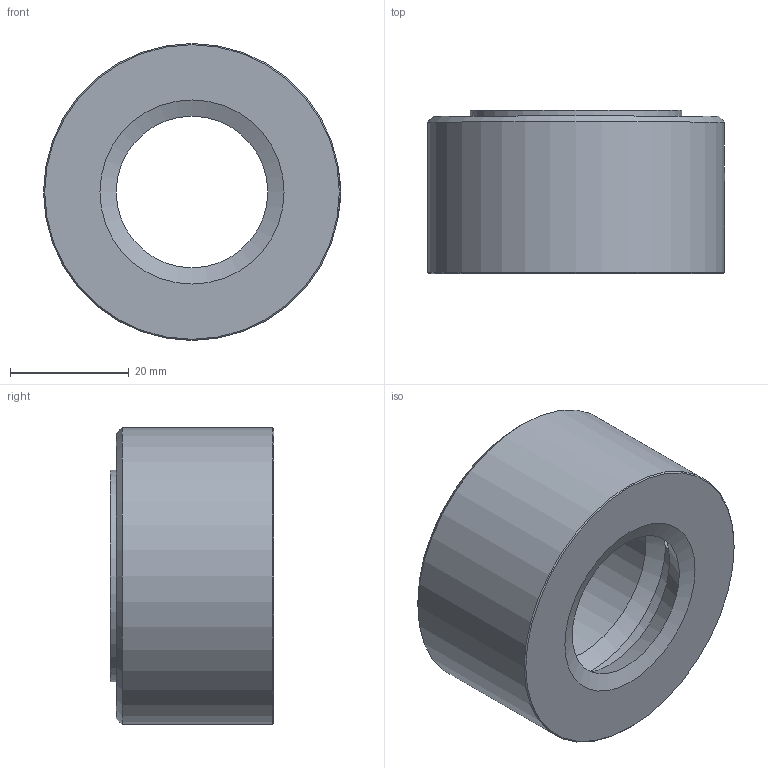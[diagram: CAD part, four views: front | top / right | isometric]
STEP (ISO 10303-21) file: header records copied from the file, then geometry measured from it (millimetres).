
FILE_DESCRIPTION( ( 'STEP AP203' ), '1' );
FILE_NAME( 'p:/temp/worker_73/temp/exporttempdir_5088_62_mUKey/format_4/E30498.stp', '2022-03-15T10:46:46', ( 'License CC BY-ND 4.0' ), ( 'CADENAS' ), ' ', 'PARTsolutions', ' ' );
FILE_SCHEMA( ( 'CONFIG_CONTROL_DESIGN' ) );
Length unit declared in the file: millimetre
Products named in the file (1): _E30498
Bounding box: 50 x 27.5 x 50 mm (x, y, z)
Volume: 32288.4 mm3; surface area: 9864.1 mm2
Topology: 1 solids, 1 shells, 17 faces, 37 edges, 23 vertices
Faces by surface type: cone 7, cylinder 5, plane 4, torus 1
Full cylindrical faces by diameter (mm): 3.2 x1, 30.291 x1, 35.6 x1, 50 x1
Entity records: 538 total; most frequent: CARTESIAN_POINT 176, DIRECTION 68, ORIENTED_EDGE 46, AXIS2_PLACEMENT_3D 34, EDGE_LOOP 33, EDGE_CURVE 23, FACE_OUTER_BOUND 22, VERTEX_POINT 20
